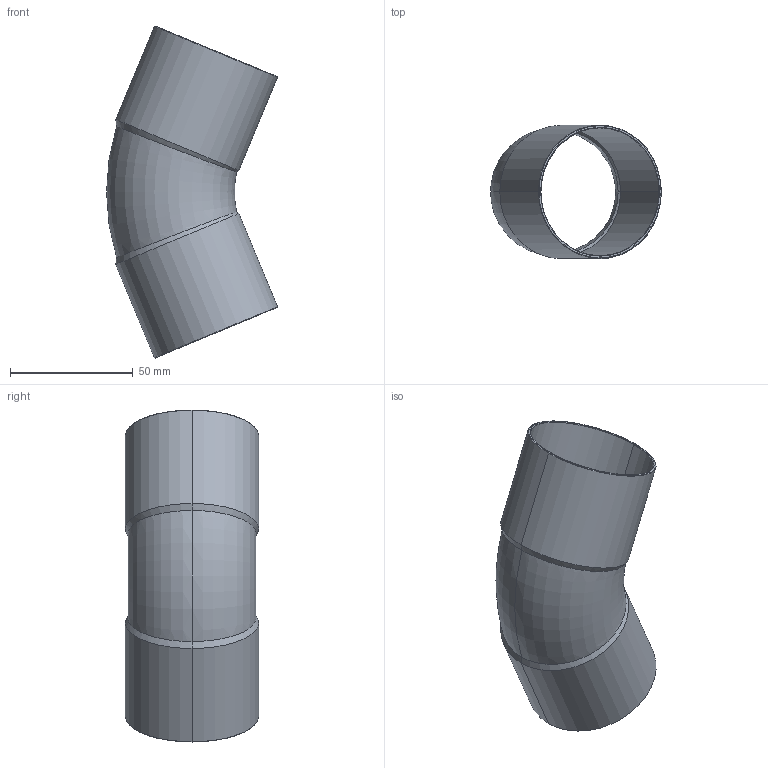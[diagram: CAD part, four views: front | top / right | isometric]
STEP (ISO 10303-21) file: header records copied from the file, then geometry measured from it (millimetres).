
FILE_DESCRIPTION((''),'2;1');
FILE_NAME('P:\Bouwmaten\z-maattekeningen 3D\5000\5040\1504152.stp','2005-10-12T15:37:16',('Kris'),(''),'Autodesk Inventor 8','Autodesk Inventor 8','');
FILE_SCHEMA(('AUTOMOTIVE_DESIGN { 1 0 10303 214 1 1 1 1 }'));
Length unit declared in the file: millimetre
Products named in the file (1): 1504152
Bounding box: 69.55 x 54.2 x 135.15 mm (x, y, z)
Volume: 22062.1 mm3; surface area: 40425.3 mm2
Topology: 1 solids, 1 shells, 30 faces, 60 edges, 32 vertices
Faces by surface type: cone 12, bspline 9, torus 4, cylinder 4, plane 1
Entity records: 1027 total; most frequent: CARTESIAN_POINT 414, DIRECTION 124, ORIENTED_EDGE 120, EDGE_CURVE 60, AXIS2_PLACEMENT_3D 50, VERTEX_POINT 32, EDGE_LOOP 32, FACE_OUTER_BOUND 30
